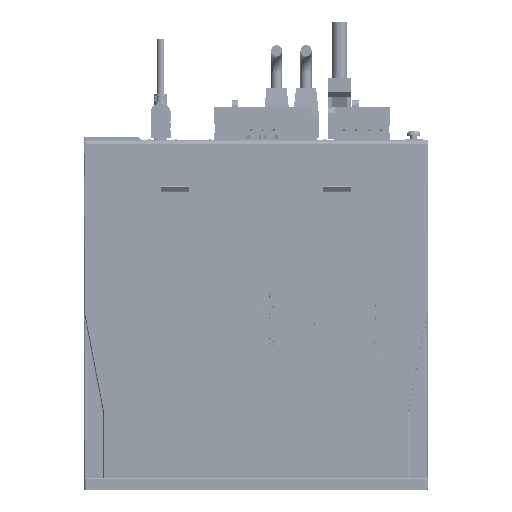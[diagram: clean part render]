
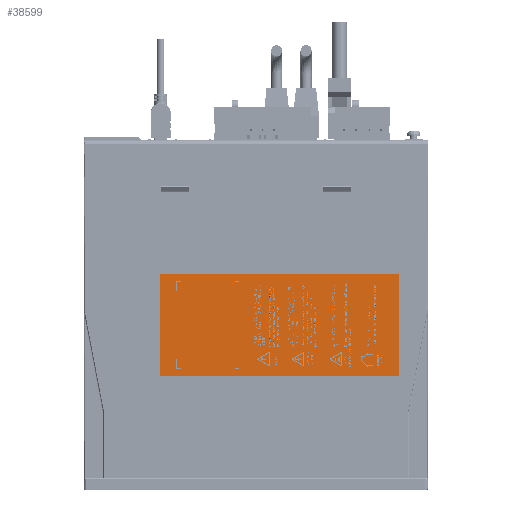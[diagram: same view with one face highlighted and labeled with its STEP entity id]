
A CAD part, left-side view. The second image highlights one B-rep face of the part: STEP entity #38599.
In plain terms, the highlighted planar face has unit normal (-1, 0, 0).
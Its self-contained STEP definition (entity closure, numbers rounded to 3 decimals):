
#2721=TRIMMED_CURVE($,#6656,(#800607),(#800608),.T.,.CARTESIAN.);
#2871=TRIMMED_CURVE($,#6806,(#803912),(#803913),.T.,.CARTESIAN.);
#6656=CIRCLE('',#434540,0.2);
#6806=CIRCLE('',#434690,0.2);
#38599=ADVANCED_FACE('',(#65275),#410861,.T.);
#65275=FACE_OUTER_BOUND('',#91770,.T.);
#91770=EDGE_LOOP('',(#205038,#205039,#205040,#205041,#205042,#205043));
#205038=ORIENTED_EDGE('',*,*,#279506,.F.);
#205039=ORIENTED_EDGE('',*,*,#280906,.T.);
#205040=ORIENTED_EDGE('',*,*,#280907,.F.);
#205041=ORIENTED_EDGE('',*,*,#280908,.F.);
#205042=ORIENTED_EDGE('',*,*,#279500,.F.);
#205043=ORIENTED_EDGE('',*,*,#279499,.T.);
#279499=EDGE_CURVE('',#388467,#388466,#2721,.T.);
#279500=EDGE_CURVE('',#388467,#388468,#342231,.T.);
#279506=EDGE_CURVE('',#388471,#388466,#342237,.T.);
#280906=EDGE_CURVE('',#388471,#388470,#2871,.T.);
#280907=EDGE_CURVE('',#388469,#388470,#343487,.T.);
#280908=EDGE_CURVE('',#388468,#388469,#343488,.T.);
#342231=B_SPLINE_CURVE_WITH_KNOTS('',1,(#800609,#800610),.UNSPECIFIED.,
 .F.,.F.,(2,2),(0.,128.8),.UNSPECIFIED.);
#342237=B_SPLINE_CURVE_WITH_KNOTS('',1,(#800621,#800622),.UNSPECIFIED.,
 .F.,.F.,(2,2),(0.,54.6),.UNSPECIFIED.);
#343487=B_SPLINE_CURVE_WITH_KNOTS('',1,(#803914,#803915),.UNSPECIFIED.,
 .F.,.F.,(2,2),(-128.8,0.),.UNSPECIFIED.);
#343488=B_SPLINE_CURVE_WITH_KNOTS('',1,(#803916,#803917),.UNSPECIFIED.,
 .F.,.F.,(2,2),(-55.,0.),.UNSPECIFIED.);
#388466=VERTEX_POINT('',#790888);
#388467=VERTEX_POINT('',#790889);
#388468=VERTEX_POINT('',#790890);
#388469=VERTEX_POINT('',#790891);
#388470=VERTEX_POINT('',#790892);
#388471=VERTEX_POINT('',#790893);
#410861=PLANE('',#433810);
#433810=AXIS2_PLACEMENT_3D('',#786261,#461437,$);
#434540=AXIS2_PLACEMENT_3D($,#800606,#462585,#462586);
#434690=AXIS2_PLACEMENT_3D($,#803911,#462885,#462886);
#461437=DIRECTION('',(-1.,0.,0.));
#462585=DIRECTION('',(-1.,0.,0.));
#462586=DIRECTION('',(0.,0.,1.));
#462885=DIRECTION('',(-1.,0.,0.));
#462886=DIRECTION('',(0.,1.,0.));
#786261=CARTESIAN_POINT('',(35.705,-416.169,-63.721));
#790888=CARTESIAN_POINT('',(35.705,-274.209,-69.481));
#790889=CARTESIAN_POINT('',(35.705,-274.409,-69.281));
#790890=CARTESIAN_POINT('',(35.705,-403.209,-69.281));
#790891=CARTESIAN_POINT('',(35.705,-403.209,-124.281));
#790892=CARTESIAN_POINT('',(35.705,-274.409,-124.281));
#790893=CARTESIAN_POINT('',(35.705,-274.209,-124.081));
#800606=CARTESIAN_POINT('',(35.705,-274.409,-69.481));
#800607=CARTESIAN_POINT('',(35.705,-274.409,-69.281));
#800608=CARTESIAN_POINT('',(35.705,-274.209,-69.481));
#800609=CARTESIAN_POINT('',(35.705,-274.409,-69.281));
#800610=CARTESIAN_POINT('',(35.705,-403.209,-69.281));
#800621=CARTESIAN_POINT('',(35.705,-274.209,-124.081));
#800622=CARTESIAN_POINT('',(35.705,-274.209,-69.481));
#803911=CARTESIAN_POINT('',(35.705,-274.409,-124.081));
#803912=CARTESIAN_POINT('',(35.705,-274.209,-124.081));
#803913=CARTESIAN_POINT('',(35.705,-274.409,-124.281));
#803914=CARTESIAN_POINT('',(35.705,-403.209,-124.281));
#803915=CARTESIAN_POINT('',(35.705,-274.409,-124.281));
#803916=CARTESIAN_POINT('',(35.705,-403.209,-69.281));
#803917=CARTESIAN_POINT('',(35.705,-403.209,-124.281));
